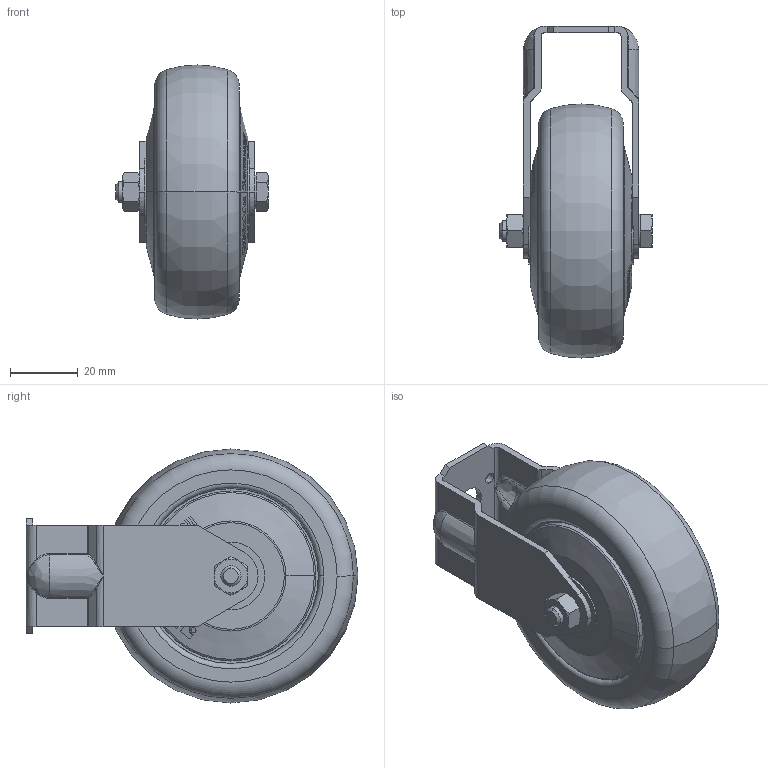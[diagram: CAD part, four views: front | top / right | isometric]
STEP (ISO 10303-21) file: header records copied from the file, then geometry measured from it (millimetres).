
FILE_DESCRIPTION (( 'STEP AP203' ), '1' );
FILE_NAME ('10090_BOC75.STEP', '2018-03-23T11:17:59', ( '' ), ( '' ), 'SwSTEP 2.0', 'SolidWorks 2017', '' );
FILE_SCHEMA (( 'CONFIG_CONTROL_DESIGN' ));
Length unit declared in the file: millimetre
Products named in the file (1): 10090_BOC75
Bounding box: 45 x 98 x 75 mm (x, y, z)
Volume: 121208.8 mm3; surface area: 26223.4 mm2
Topology: 3 solids, 3 shells, 961 faces, 2498 edges, 1623 vertices
Faces by surface type: plane 508, bspline 281, cone 85, cylinder 53, torus 26, sphere 8
Entity records: 42097 total; most frequent: CARTESIAN_POINT 21531, ORIENTED_EDGE 4996, DIRECTION 2889, EDGE_CURVE 2498, VERTEX_POINT 1623, B_SPLINE_CURVE_WITH_KNOTS 1158, LINE 1121, VECTOR 1121
